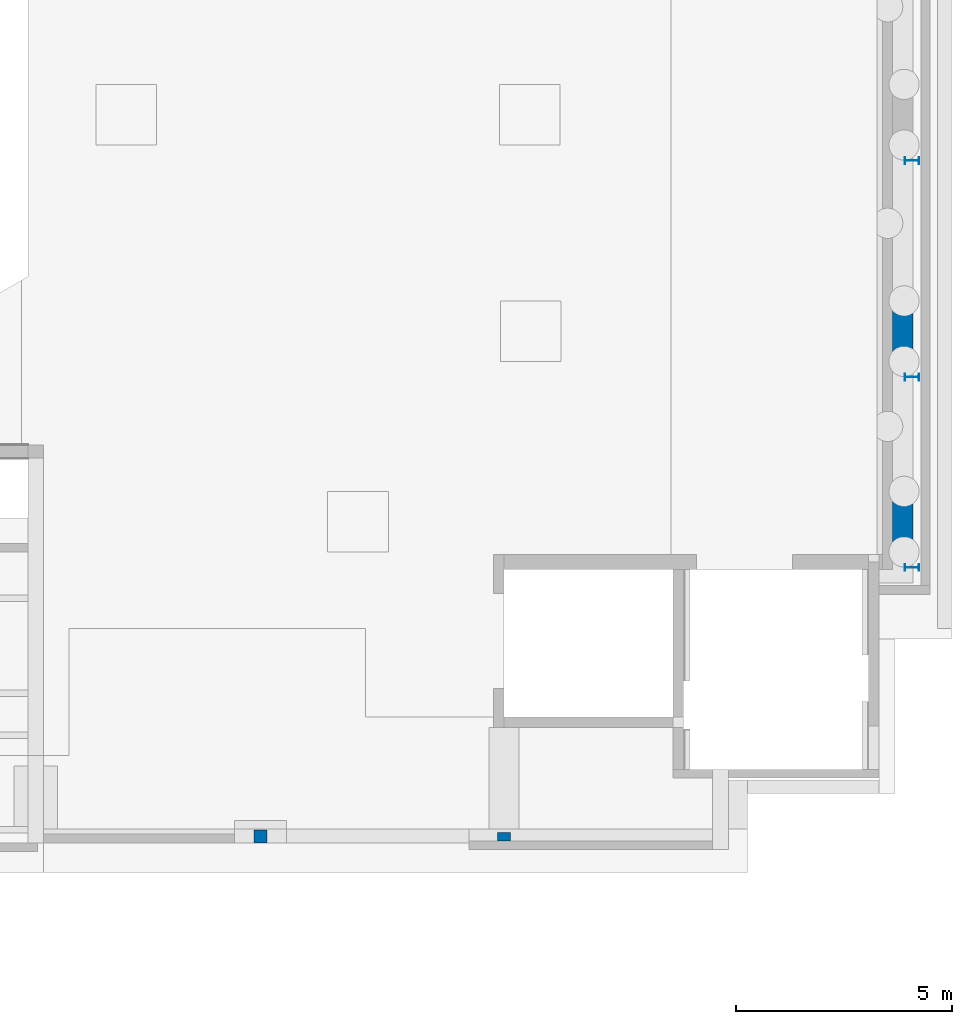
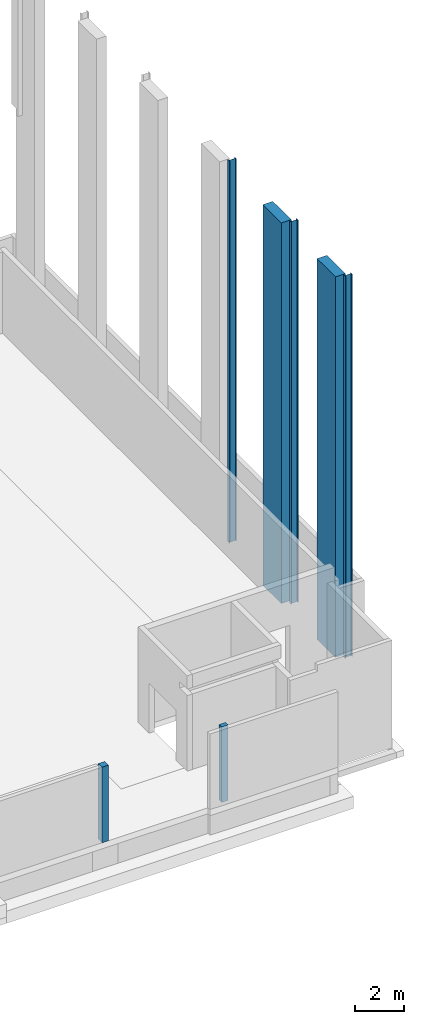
# One storey, part 8 of 34: 7 columns.
"""IFC2X3 building model written with IfcOpenShell, lengths in millimetres."""

import ifcopenshell
import ifcopenshell.guid

model = None  # the IFC model being written
_history = None  # IfcOwnerHistory: only IFC2X3 demands one
_inside = {}  # id of a spatial element -> (the spatial element, [elements in it])
_under = {}  # id of a project, library or spatial element -> (it, [spatial elements below it])
_declared = {}  # id of a project -> (the project, [libraries it declares])
_typed = {}  # id of a type object -> (the type object, [elements of that type])
_made_of = {}  # id of a material, layer set ... -> (it, [elements and type objects made of it])


def new_model(schema):
    """Start an empty IFC model of exactly this schema.

    Asked for "IFC4X3", IfcOpenShell would pick the latest addendum, in which some entities
    have other attributes; the version numbers below select the first issue.
    IFC2X3 requires an IfcOwnerHistory on every rooted entity: one is made here for all.
    """
    global model, _history
    if schema == "IFC4X3":
        model = ifcopenshell.file(schema_version=(4, 3, 0, 0))
    else:
        model = ifcopenshell.file(schema=schema)
    _inside.clear()
    _under.clear()
    _declared.clear()
    _typed.clear()
    _made_of.clear()
    _history = None
    if model.schema == "IFC2X3":
        org = make("IfcOrganization", Name="unknown")
        user = make(
            "IfcPersonAndOrganization",
            ThePerson=make("IfcPerson", FamilyName="unknown"),
            TheOrganization=org,
        )
        app = make(
            "IfcApplication",
            ApplicationDeveloper=org,
            Version="unknown",
            ApplicationFullName="unknown",
            ApplicationIdentifier="unknown",
        )
        _history = make(
            "IfcOwnerHistory",
            OwningUser=user,
            OwningApplication=app,
            ChangeAction="ADDED",
            CreationDate=0,
        )
    return model


def make(cls, **values):
    """One entity of the class cls with the attributes given. An attribute that is None is left unset."""
    return model.create_entity(
        cls, **{name: value for name, value in values.items() if value is not None}
    )


def entity(cls, *values):
    """Any entity or typed value of the class cls, its attributes in the order of the schema. None: left unset."""
    e = model.create_entity(cls)
    for i, value in enumerate(values):
        if value is not None:
            e[i] = value
    return e


def rooted(cls, **values):
    """An entity with a GlobalId (a new one), such as an element, a storey or a relation."""
    return make(cls, GlobalId=ifcopenshell.guid.new(), OwnerHistory=_history, **values)


def si_unit(unit_type, name, prefix=None):
    """IfcSIUnit, for example si_unit("LENGTHUNIT", "METRE", prefix="MILLI")."""
    return make("IfcSIUnit", UnitType=unit_type, Prefix=prefix, Name=name)


def converted_unit(unit_type, name, factor, base, dimensions=None, offset=None):
    """IfcConversionBasedUnit, such as the inch: factor (a typed value) times the base unit."""
    return make(
        "IfcConversionBasedUnit"
        if offset is None
        else "IfcConversionBasedUnitWithOffset",
        ConversionOffset=offset,
        Dimensions=None
        if dimensions is None
        else entity("IfcDimensionalExponents", *dimensions),
        UnitType=unit_type,
        Name=name,
        ConversionFactor=make(
            "IfcMeasureWithUnit", ValueComponent=factor, UnitComponent=base
        ),
    )


def derived_unit(unit_type, elements):
    """IfcDerivedUnit: a product of units, each with its exponent."""
    return make(
        "IfcDerivedUnit",
        Elements=[
            make("IfcDerivedUnitElement", Unit=unit, Exponent=power)
            for unit, power in elements
        ],
        UnitType=unit_type,
    )


def assignment(units):
    """IfcUnitAssignment: the units of a project."""
    return None if units is None else make("IfcUnitAssignment", Units=units)


def point(xyz):
    """IfcCartesianPoint."""
    return None if xyz is None else make("IfcCartesianPoint", Coordinates=xyz)


def direction(xyz):
    """IfcDirection."""
    return None if xyz is None else make("IfcDirection", DirectionRatios=xyz)


def frame(location, z_axis=None, x_axis=None):
    """IfcAxis2Placement3D, a coordinate frame: its origin and axes. An axis left out is left unset."""
    return make(
        "IfcAxis2Placement3D",
        Location=point(location),
        Axis=direction(z_axis),
        RefDirection=direction(x_axis),
    )


def frame_2d(location, x_axis=None):
    """IfcAxis2Placement2D, a coordinate frame in the plane: its origin and x axis."""
    return make(
        "IfcAxis2Placement2D", Location=point(location), RefDirection=direction(x_axis)
    )


def origin():
    """The frame at (0, 0, 0) with its axes left unset."""
    return frame((0.0, 0.0, 0.0))


def place(relative_to, where):
    """IfcLocalPlacement: puts the frame where relative to a parent placement (None: the world)."""
    return make(
        "IfcLocalPlacement", PlacementRelTo=relative_to, RelativePlacement=where
    )


def context(
    kind, dimensions, precision=None, world=None, true_north=None, identifier=None
):
    """IfcGeometricRepresentationContext, for example the 3D "Model" context."""
    return make(
        "IfcGeometricRepresentationContext",
        ContextIdentifier=identifier,
        ContextType=kind,
        CoordinateSpaceDimension=dimensions,
        Precision=precision,
        WorldCoordinateSystem=world,
        TrueNorth=true_north,
    )


def subcontext(parent, identifier, kind, view, scale=None):
    """IfcGeometricRepresentationSubContext, for example "Body" below "Model"."""
    return make(
        "IfcGeometricRepresentationSubContext",
        ContextIdentifier=identifier,
        ContextType=kind,
        ParentContext=parent,
        TargetScale=scale,
        TargetView=view,
    )


def project(units=None, contexts=None):
    """IfcProject with its units and contexts."""
    return rooted(
        "IfcProject",
        Name="project",
        RepresentationContexts=contexts,
        UnitsInContext=assignment(units),
    )


def spatial(cls, under=None, at=None, **own):
    """A site, building, storey or space (cls), placed at a placement, below another one or the project."""
    s = rooted(cls, ObjectPlacement=at, **own)
    if under is not None:
        _under.setdefault(under.id(), (under, []))[1].append(s)
    return s


def profile(cls, at=None, kind="AREA", **sizes):
    """A parametric profile (cls). Its sizes go by their IFC names, for example OverallWidth=200.0."""
    return make(cls, ProfileType=kind, Position=at, **sizes)


def rectangle(**sizes):
    """IfcRectangleProfileDef."""
    return profile("IfcRectangleProfileDef", **sizes)


def i_section(**sizes):
    """IfcIShapeProfileDef."""
    return profile("IfcIShapeProfileDef", **sizes)


def extrude(swept, where, along, depth):
    """IfcExtrudedAreaSolid: the profile swept, set in the frame where, extruded along a direction by depth."""
    return make(
        "IfcExtrudedAreaSolid",
        SweptArea=swept,
        Position=where,
        ExtrudedDirection=direction(along),
        Depth=depth,
    )


def shape(context_of_items, identifier, shape_type, items):
    """IfcShapeRepresentation: the items that make up one representation, for example the "Body"."""
    return make(
        "IfcShapeRepresentation",
        ContextOfItems=context_of_items,
        RepresentationIdentifier=identifier,
        RepresentationType=shape_type,
        Items=items,
    )


def source(mapping_origin, context_of_items, identifier, shape_type, items):
    """IfcRepresentationMap: a shape defined once, which mapped items show again and again."""
    return make(
        "IfcRepresentationMap",
        MappingOrigin=mapping_origin,
        MappedRepresentation=shape(context_of_items, identifier, shape_type, items),
    )


def transform(
    local_origin,
    x_axis=None,
    y_axis=None,
    z_axis=None,
    scale=None,
    scale2=None,
    scale3=None,
    uniform=True,
):
    """IfcCartesianTransformationOperator3D, or its non-uniform kind. x_axis, y_axis, z_axis: its Axis1, 2, 3."""
    if uniform:
        return make(
            "IfcCartesianTransformationOperator3D",
            Axis1=direction(x_axis),
            Axis2=direction(y_axis),
            LocalOrigin=point(local_origin),
            Scale=scale,
            Axis3=direction(z_axis),
        )
    return make(
        "IfcCartesianTransformationOperator3DnonUniform",
        Axis1=direction(x_axis),
        Axis2=direction(y_axis),
        LocalOrigin=point(local_origin),
        Scale=scale,
        Axis3=direction(z_axis),
        Scale2=scale2,
        Scale3=scale3,
    )


def mapped(mapping_source, mapping_target):
    """IfcMappedItem: shows the shape of a source again, moved by a transform."""
    return make(
        "IfcMappedItem", MappingSource=mapping_source, MappingTarget=mapping_target
    )


def material(Name=None, Category=None):
    """IfcMaterial."""
    return make("IfcMaterial", Name=Name, Category=Category)


def made_of(thing, what):
    """Note that an element or type object is made of a material, layer set ...; save() writes the relation."""
    if what is not None:
        _made_of.setdefault(what.id(), (what, []))[1].append(thing)
    return thing


def type_object(cls, material=None, **own):
    """A type object (cls), such as IfcWallType, which elements share."""
    return made_of(rooted(cls, **own), material)


def type_shapes(of_type, sources):
    """Give a type object the sources (RepresentationMaps) that its elements show as mapped items."""
    of_type.RepresentationMaps = sources


def element(
    cls,
    number,
    at=None,
    inside=None,
    cuts=None,
    type_object=None,
    material=None,
    context=None,
    identifier="Body",
    shape_type=None,
    held_by="IfcProductDefinitionShape",
    body=None,
    shapes=None,
    **own,
):
    """One element of the class cls, such as IfcWall. Its Tag is "e" and its number.

    at: its placement. inside: the storey or other place that contains it. cuts: it is an
    opening in that element (IfcRelVoidsElement). A single representation is given by context,
    identifier, shape_type and body (its items); several are given by shapes. held_by: the class
    of the entity that holds the representations. save() writes the other relations.
    """
    e = rooted(cls, Tag="e%d" % number, ObjectPlacement=at, **own)
    if body is not None:
        shapes = [shape(context, identifier, shape_type, body)]
    if shapes is not None:
        e.Representation = make(held_by, Representations=shapes)
    if inside is not None:
        _inside.setdefault(inside.id(), (inside, []))[1].append(e)
    if cuts is not None:
        rooted(
            "IfcRelVoidsElement", RelatingBuildingElement=cuts, RelatedOpeningElement=e
        )
    if type_object is not None:
        _typed.setdefault(type_object.id(), (type_object, []))[1].append(e)
    return made_of(e, material)


def aggregate(whole, parts):
    """IfcRelAggregates: a whole, such as a stair, and the parts it consists of."""
    return rooted("IfcRelAggregates", RelatingObject=whole, RelatedObjects=parts)


def save(model, path):
    """Write the relations noted so far, then the file.

    IfcRelAggregates (storeys below a building ...), IfcRelContainedInSpatialStructure (elements
    in a storey), IfcRelDefinesByType, IfcRelAssociatesMaterial and IfcRelDeclares: one each for
    every whole, place, type object, material and project.
    """
    for whole, parts in _under.values():
        aggregate(whole, parts)
    for where, things in _inside.values():
        rooted(
            "IfcRelContainedInSpatialStructure",
            RelatedElements=things,
            RelatingStructure=where,
        )
    for kind, things in _typed.values():
        rooted("IfcRelDefinesByType", RelatedObjects=things, RelatingType=kind)
    for what, things in _made_of.values():
        rooted("IfcRelAssociatesMaterial", RelatedObjects=things, RelatingMaterial=what)
    for by, libraries in _declared.values():
        rooted("IfcRelDeclares", RelatingContext=by, RelatedDefinitions=libraries)
    model.write(path)


model = new_model("IFC2X3")

# Units and contexts
model_context = context("Model", 3, precision=0.01, world=origin(), true_north=direction((6.12303176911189e-17, 1.0)))
body_context = subcontext(model_context, "Body", "Model", "MODEL_VIEW")
ifc_project = project(units=[si_unit("LENGTHUNIT", "METRE", prefix="MILLI"), si_unit("AREAUNIT", "SQUARE_METRE", prefix="MILLI"), si_unit("VOLUMEUNIT", "CUBIC_METRE"), converted_unit("PLANEANGLEUNIT", "DEGREE", entity("IfcRatioMeasure", 0.0174532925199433), si_unit("PLANEANGLEUNIT", "RADIAN"), dimensions=[0, 0, 0, 0, 0, 0, 0]), si_unit("MASSUNIT", "GRAM", prefix="KILO"), derived_unit("MASSDENSITYUNIT", [(si_unit("MASSUNIT", "GRAM", prefix="KILO"), 1), (si_unit("LENGTHUNIT", "METRE"), -3)]), derived_unit("MOMENTOFINERTIAUNIT", [(si_unit("LENGTHUNIT", "METRE"), 4)]), si_unit("TIMEUNIT", "SECOND"), si_unit("FREQUENCYUNIT", "HERTZ"), si_unit("THERMODYNAMICTEMPERATUREUNIT", "DEGREE_CELSIUS"), derived_unit("THERMALTRANSMITTANCEUNIT", [(si_unit("MASSUNIT", "GRAM", prefix="KILO"), 1), (si_unit("THERMODYNAMICTEMPERATUREUNIT", "KELVIN"), -1), (si_unit("TIMEUNIT", "SECOND"), -3)]), derived_unit("VOLUMETRICFLOWRATEUNIT", [(si_unit("LENGTHUNIT", "METRE"), 3), (si_unit("TIMEUNIT", "SECOND"), -1)]), si_unit("ELECTRICCURRENTUNIT", "AMPERE"), si_unit("ELECTRICVOLTAGEUNIT", "VOLT"), si_unit("POWERUNIT", "WATT"), si_unit("FORCEUNIT", "NEWTON", prefix="KILO"), si_unit("ILLUMINANCEUNIT", "LUX"), si_unit("LUMINOUSFLUXUNIT", "LUMEN"), si_unit("LUMINOUSINTENSITYUNIT", "CANDELA"), derived_unit("USERDEFINED", [(si_unit("MASSUNIT", "GRAM", prefix="KILO"), -1), (si_unit("LENGTHUNIT", "METRE"), -2), (si_unit("TIMEUNIT", "SECOND"), 3), (si_unit("LUMINOUSFLUXUNIT", "LUMEN"), 1)]), derived_unit("LINEARVELOCITYUNIT", [(si_unit("LENGTHUNIT", "METRE"), 1), (si_unit("TIMEUNIT", "SECOND"), -1)]), si_unit("PRESSUREUNIT", "PASCAL"), derived_unit("USERDEFINED", [(si_unit("LENGTHUNIT", "METRE"), -2), (si_unit("MASSUNIT", "GRAM", prefix="KILO"), 1), (si_unit("TIMEUNIT", "SECOND"), -2)]), derived_unit("LINEARFORCEUNIT", [(si_unit("MASSUNIT", "GRAM", prefix="KILO"), 1), (si_unit("LENGTHUNIT", "METRE"), 1), (si_unit("TIMEUNIT", "SECOND"), -2), (si_unit("LENGTHUNIT", "METRE"), -1)]), derived_unit("PLANARFORCEUNIT", [(si_unit("MASSUNIT", "GRAM", prefix="KILO"), 1), (si_unit("LENGTHUNIT", "METRE"), 1), (si_unit("TIMEUNIT", "SECOND"), -2), (si_unit("LENGTHUNIT", "METRE"), -2)])], contexts=[model_context])

# Site, building, storey
site_placement = place(None, origin())
site = spatial("IfcSite", under=ifc_project, at=site_placement, Name="Theater aan de Parade", CompositionType="ELEMENT")
building_placement = place(site_placement, origin())
building = spatial("IfcBuilding", under=site, at=building_placement, Name="Theater aan de Parade", CompositionType="ELEMENT")
storey_placement = place(building_placement, frame((0.0, 0.0, 3.49116848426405e-09)))
storey = spatial("IfcBuildingStorey", under=building, at=storey_placement, Name="00 begane grond", CompositionType="ELEMENT", Elevation=3.49116848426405e-09)

# Columns
ifc_material_1 = material(Name="00_PBT_MAT_beton t.p.g._C40/50")
column_type_1 = type_object("IfcColumnType", Name="28_PBT_SC_beton_rechthoekig:C40/50_1500x700", PredefinedType="COLUMN", material=ifc_material_1)
shared_shape_1 = source(origin(), body_context, "Body", "SweptSolid", [
    extrude(rectangle(XDim=1500.00000000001, YDim=470.000000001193, at=frame_2d((-2.1600499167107e-12, -3.0320279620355e-10), x_axis=(1.0, 0.0))), frame((87561.0, 24910.0, 880.0), z_axis=(0.0, 0.0, 1.0), x_axis=(0.0, -1.0, 0.0)), (0.0, 0.0, 1.0), 18849.9999999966),
])
type_shapes(column_type_1, [shared_shape_1])
column_1_placement = place(storey_placement, frame((0.0, 0.0, -3.49116848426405e-09)))
element("IfcColumn", 1, at=column_1_placement, inside=storey, type_object=column_type_1, material=ifc_material_1, Name="28_PBT_SC_beton_rechthoekig:C40/50_1500x700", ObjectType="28_PBT_SC_beton_rechthoekig:C40/50_1500x700", context=body_context, shape_type="MappedRepresentation", body=[
    mapped(shared_shape_1, transform((0.0, 0.0, 0.0), scale=1.0)),
])
column_type_2 = type_object("IfcColumnType", Name="28_PBT_SC_beton_rechthoekig:C40/50_1500x700", PredefinedType="COLUMN", material=ifc_material_1)
shared_shape_2 = source(origin(), body_context, "Body", "SweptSolid", [
    extrude(rectangle(XDim=1500.00000000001, YDim=470.000000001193, at=frame_2d((-2.1600499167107e-12, -3.0320279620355e-10), x_axis=(1.0, 0.0))), frame((87561.0, 20510.0, 880.0), z_axis=(0.0, 0.0, 1.0), x_axis=(0.0, -1.0, 0.0)), (0.0, 0.0, 1.0), 18849.9999999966),
])
type_shapes(column_type_2, [shared_shape_2])
column_2_placement = place(storey_placement, frame((0.0, 0.0, -3.49116848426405e-09)))
element("IfcColumn", 2, at=column_2_placement, inside=storey, type_object=column_type_2, material=ifc_material_1, Name="28_PBT_SC_beton_rechthoekig:C40/50_1500x700", ObjectType="28_PBT_SC_beton_rechthoekig:C40/50_1500x700", context=body_context, shape_type="MappedRepresentation", body=[
    mapped(shared_shape_2, transform((0.0, 0.0, 0.0), scale=1.0)),
])
ifc_material_2 = material(Name="00_PBT_MAT_staal_S355")
column_type_3 = type_object("IfcColumnType", Name="28_PBT_SC_staal_IPE-profiel:S355_IPE330", PredefinedType="COLUMN", material=ifc_material_2)
shared_shape_3 = source(origin(), body_context, "Body", "SweptSolid", [
    extrude(i_section(OverallWidth=159.999999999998, OverallDepth=329.999999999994, WebThickness=7.5000000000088, FlangeThickness=11.500000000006, FilletRadius=17.999999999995, at=frame_2d((2.16715534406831e-12, 1.73230318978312e-11), x_axis=(1.0, 0.0))), frame((87771.0, 28910.0, 930.0), z_axis=(0.0, 0.0, 1.0), x_axis=(0.0, -1.0, 0.0)), (0.0, 0.0, 1.0), 18919.9999999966),
])
type_shapes(column_type_3, [shared_shape_3])
column_3_placement = place(storey_placement, frame((0.0, 0.0, -3.49116848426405e-09)))
element("IfcColumn", 3, at=column_3_placement, inside=storey, type_object=column_type_3, material=ifc_material_2, Name="28_PBT_SC_staal_IPE-profiel:S355_IPE330", ObjectType="28_PBT_SC_staal_IPE-profiel:S355_IPE330", context=body_context, shape_type="MappedRepresentation", body=[
    mapped(shared_shape_3, transform((0.0, 0.0, 0.0), scale=1.0)),
])
column_type_4 = type_object("IfcColumnType", Name="28_PBT_SC_staal_IPE-profiel:S355_IPE330", PredefinedType="COLUMN", material=ifc_material_2)
shared_shape_4 = source(origin(), body_context, "Body", "SweptSolid", [
    extrude(i_section(OverallWidth=159.999999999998, OverallDepth=329.999999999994, WebThickness=7.5000000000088, FlangeThickness=11.500000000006, FilletRadius=17.999999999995, at=frame_2d((6.50146603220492e-12, 1.73230318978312e-11), x_axis=(1.0, 0.0))), frame((87771.0, 23910.0, 930.0), z_axis=(0.0, 0.0, 1.0), x_axis=(0.0, -1.0, 0.0)), (0.0, 0.0, 1.0), 18919.9999999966),
])
type_shapes(column_type_4, [shared_shape_4])
column_4_placement = place(storey_placement, frame((0.0, 0.0, -3.49116848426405e-09)))
element("IfcColumn", 4, at=column_4_placement, inside=storey, type_object=column_type_4, material=ifc_material_2, Name="28_PBT_SC_staal_IPE-profiel:S355_IPE330", ObjectType="28_PBT_SC_staal_IPE-profiel:S355_IPE330", context=body_context, shape_type="MappedRepresentation", body=[
    mapped(shared_shape_4, transform((0.0, 0.0, 0.0), scale=1.0)),
])
column_type_5 = type_object("IfcColumnType", Name="28_PBT_SC_staal_IPE-profiel:S355_IPE330", PredefinedType="COLUMN", material=ifc_material_2)
shared_shape_5 = source(origin(), body_context, "Body", "SweptSolid", [
    extrude(i_section(OverallWidth=160.0, OverallDepth=329.999999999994, WebThickness=7.50000000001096, FlangeThickness=11.500000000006, FilletRadius=17.9999999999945, at=frame_2d((3.24718030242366e-12, 1.73230318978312e-11), x_axis=(1.0, 0.0))), frame((87771.0, 19510.0, 930.0), z_axis=(0.0, 0.0, 1.0), x_axis=(0.0, -1.0, 0.0)), (0.0, 0.0, 1.0), 18919.9999999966),
])
type_shapes(column_type_5, [shared_shape_5])
column_5_placement = place(storey_placement, frame((0.0, 0.0, -3.49116848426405e-09)))
element("IfcColumn", 5, at=column_5_placement, inside=storey, type_object=column_type_5, material=ifc_material_2, Name="28_PBT_SC_staal_IPE-profiel:S355_IPE330", ObjectType="28_PBT_SC_staal_IPE-profiel:S355_IPE330", context=body_context, shape_type="MappedRepresentation", body=[
    mapped(shared_shape_5, transform((0.0, 0.0, 0.0), scale=1.0)),
])
ifc_material_3 = material(Name="00_PBT_MAT_beton t.p.g._C30/37")
column_type_6 = type_object("IfcColumnType", Name="16_PBT_SC_beton_rechthoekig:C30/37_300x400_penant", PredefinedType="COLUMN", material=ifc_material_3)
shared_shape_6 = source(origin(), body_context, "Body", "SweptSolid", [
    extrude(rectangle(XDim=200.000000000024, YDim=300.000000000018, at=frame_2d((-2.16715534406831e-12, 8.66862137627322e-12), x_axis=(1.0, 0.0))), frame((78350.0, 13292.0, 880.0), z_axis=(0.0, 0.0, 1.0), x_axis=(0.0, -1.0, 0.0)), (0.0, 0.0, 1.0), 3739.99999999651),
])
type_shapes(column_type_6, [shared_shape_6])
column_6_placement = place(storey_placement, frame((0.0, 0.0, -3.49116848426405e-09)))
element("IfcColumn", 6, at=column_6_placement, inside=storey, type_object=column_type_6, material=ifc_material_3, Name="16_PBT_SC_beton_rechthoekig:C30/37_300x400_penant", ObjectType="16_PBT_SC_beton_rechthoekig:C30/37_300x400_penant", context=body_context, shape_type="MappedRepresentation", body=[
    mapped(shared_shape_6, transform((0.0, 0.0, 0.0), scale=1.0)),
])
column_type_7 = type_object("IfcColumnType", Name="16_PBT_SC_beton_rechthoekig:C30/37_300x300_penant", PredefinedType="COLUMN", material=ifc_material_3)
shared_shape_7 = source(origin(), body_context, "Body", "SweptSolid", [
    extrude(rectangle(XDim=299.999999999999, YDim=299.999999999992, at=frame_2d((1.09423581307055e-12, 0.0), x_axis=(1.0, 0.0))), frame((72720.0, 13300.0, 880.0), z_axis=(0.0, 0.0, 1.0), x_axis=(0.0, -1.0, 0.0)), (0.0, 0.0, 1.0), 3739.99999999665),
])
type_shapes(column_type_7, [shared_shape_7])
column_7_placement = place(storey_placement, frame((0.0, 0.0, -3.49116848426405e-09)))
element("IfcColumn", 7, at=column_7_placement, inside=storey, type_object=column_type_7, material=ifc_material_3, Name="16_PBT_SC_beton_rechthoekig:C30/37_300x300_penant", ObjectType="16_PBT_SC_beton_rechthoekig:C30/37_300x300_penant", context=body_context, shape_type="MappedRepresentation", body=[
    mapped(shared_shape_7, transform((0.0, 0.0, 0.0), scale=1.0)),
])

save(model, "model.ifc")
